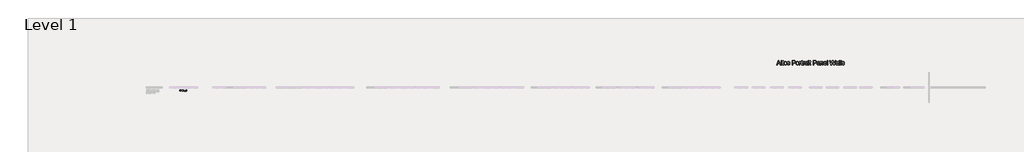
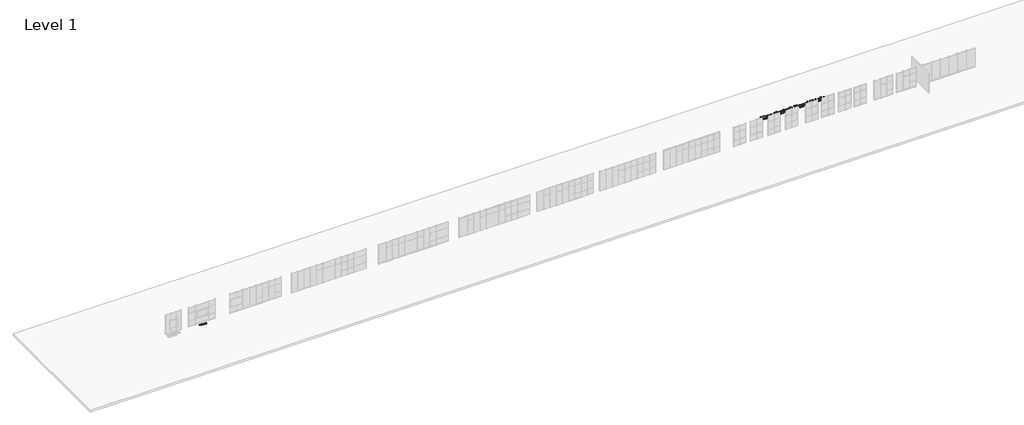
# One storey, part 22 of 22: 2 proxies.
"""IFC4 building model written with IfcOpenShell, lengths in millimetres."""

from ifc_helpers import new_model, si_unit, origin, origin_with_axes, place, context, project, spatial, polyline, outline, extrude, element, save

model = new_model("IFC4")

# Units and contexts
model_context = context("Model", 3, world=origin())
ifc_project = project(units=[si_unit("LENGTHUNIT", "METRE", prefix="MILLI")], contexts=[model_context])

# Site, building, storey
site = spatial("IfcSite", under=ifc_project)
building = spatial("IfcBuilding", under=site)
storey = spatial("IfcBuildingStorey", under=building, Name="Level 1", Elevation=0.0)

# Proxies
placement = place(None, origin())
element("IfcBuildingElementProxy", 1, Name="24\" Arial", ObjectType="24\" Arial", at=placement, inside=storey, context=model_context, shape_type="SweptSolid", body=[
    extrude(outline(polyline([(-18363.1673267, 5031.1018151), (-18120.0192804, 5640.2360032), (-18055.1798014, 5640.2360032), (-17812.0317551, 5031.1018151), (-17892.4862463, 5031.1018151), (-17962.2333005, 5221.4562489), (-18213.1144957, 5221.4562489), (-18282.7128355, 5031.1018151), (-18363.1673267, 5031.1018151)]), holes=[polyline([(-18185.1561882, 5297.5980224), (-17990.0428936, 5297.5980224), (-18044.9185077, 5447.3534246), (-18087.5995409, 5564.0942297), (-18125.5217133, 5460.440292), (-18185.1561882, 5297.5980224)])]), origin_with_axes(), (0.0, 0.0, 1.0), 152.4),
    extrude(outline(polyline([(-17740.2026992, 5031.1018151), (-17740.2026992, 5640.2360032), (-17664.0609257, 5640.2360032), (-17664.0609257, 5031.1018151), (-17740.2026992, 5031.1018151)])), origin_with_axes(), (0.0, 0.0, 1.0), 152.4),
    extrude(outline(polyline([(-17388.0469967, 5094.6028645), (-17378.529275, 5028.8710991), (-17408.6811199, 5023.4058448), (-17435.4868908, 5021.5840934), (-17472.0334549, 5024.7442745), (-17499.285369, 5034.2248175), (-17518.5438839, 5048.8360075), (-17531.1102509, 5067.3881291), (-17538.0254705, 5099.2501896), (-17540.3305437, 5153.7911963), (-17540.3305437, 5402.292961), (-17597.4368739, 5402.292961), (-17597.4368739, 5478.4347345), (-17540.3305437, 5478.4347345), (-17540.3305437, 5587.1449619), (-17464.1887702, 5631.9079968), (-17464.1887702, 5478.4347345), (-17388.0469967, 5478.4347345), (-17388.0469967, 5402.292961), (-17464.1887702, 5402.292961), (-17464.1887702, 5156.0219123), (-17460.1734814, 5116.7613103), (-17447.1609713, 5102.8565138), (-17436.1746949, 5099.0085287), (-17421.2103082, 5097.7258669), (-17388.0469967, 5094.6028645)])), origin_with_axes(), (0.0, 0.0, 1.0), 152.4),
    extrude(outline(polyline([(-17330.9406666, 5254.7682748), (-17326.8231366, 5312.7018288), (-17314.4705466, 5362.6233944), (-17293.8828967, 5404.5329717), (-17265.0601868, 5438.4305605), (-17236.0422892, 5460.0963899), (-17204.012925, 5475.5719823), (-17168.9720941, 5484.8573377), (-17130.9197967, 5487.9524562), (-17088.9126256, 5484.1834756), (-17050.930038, 5472.8765338), (-17016.9720339, 5454.0316307), (-16987.0386133, 5427.6487664), (-16962.6076256, 5394.6202274), (-16945.15692, 5355.8382999), (-16934.6864967, 5311.302984), (-16931.1963556, 5261.0142797), (-16932.7392675, 5220.257239), (-16937.3680033, 5184.0917556), (-16945.0825628, 5152.5178292), (-16955.8829462, 5125.53546), (-16969.634381, 5102.2291249), (-16986.2020948, 5081.6833009), (-17005.5860876, 5063.8979879), (-17027.7863593, 5048.8731861), (-17051.9385076, 5036.934208), (-17077.1781299, 5028.4063666), (-17103.5052263, 5023.2896617), (-17130.9197967, 5021.5840934), (-17173.5404147, 5025.3391321), (-17211.876199, 5036.604248), (-17245.9271495, 5055.3794411), (-17275.6932665, 5081.6647116), (-17299.864004, 5115.0139161), (-17317.1288165, 5154.9809115), (-17327.4877041, 5201.5656977), (-17330.9406666, 5254.7682748)]), holes=[polyline([(-17254.7988931, 5254.9169892), (-17252.596061, 5217.9846971), (-17245.9875648, 5186.0064535), (-17234.9734044, 5158.9822583), (-17219.5535799, 5136.9121117), (-17200.796976, 5119.7681296), (-17179.7724775, 5107.5224281), (-17156.4800844, 5100.1750072), (-17130.9197967, 5097.7258669), (-17105.489634, 5100.1889492), (-17082.2901874, 5107.578196), (-17061.3214568, 5119.8936074), (-17042.5834423, 5137.1351833), (-17027.1636178, 5159.4237542), (-17016.1494574, 5186.8801506), (-17009.5409612, 5219.5043724), (-17007.3381291, 5257.2964196), (-17009.5549032, 5293.0575859), (-17016.2052253, 5324.199311), (-17027.2890955, 5350.721595), (-17042.8065139, 5372.6244379), (-17061.6142383, 5389.76842), (-17082.5690269, 5402.0141215), (-17105.6708797, 5409.3615424), (-17130.9197967, 5411.8106827), (-17156.4800844, 5409.370837), (-17179.7724775, 5402.0513001), (-17200.796976, 5389.8520719), (-17219.5535799, 5372.7731523), (-17234.9734044, 5350.7680682), (-17245.9875648, 5323.7903464), (-17252.596061, 5291.8399867), (-17254.7988931, 5254.9169892)])]), origin_with_axes(), (0.0, 0.0, 1.0), 152.4),
    extrude(outline(polyline([(-16874.0900255, 5164.3499188), (-16797.948252, 5173.8676405), (-16793.3474002, 5156.5052341), (-16785.939564, 5141.2991865), (-16775.7247436, 5128.2494978), (-16762.7029388, 5117.3561679), (-16746.8369711, 5108.7679112), (-16728.0896619, 5102.6334422), (-16681.9510189, 5097.7258669), (-16636.3700548, 5102.2244776), (-16618.6544518, 5107.8477409), (-16604.3221013, 5115.7203095), (-16585.3610152, 5135.2762533), (-16580.6207436, 5146.2253511), (-16579.0406531, 5157.9551995), (-16580.6300383, 5168.2350825), (-16585.3981938, 5177.3624289), (-16604.4708157, 5192.1595118), (-16632.9868022, 5201.8259479), (-16682.8433053, 5213.8718144), (-16752.3301093, 5233.9668479), (-16797.5021087, 5251.124772), (-16826.5200063, 5269.8441973), (-16847.5445048, 5294.6237344), (-16860.315354, 5323.8832929), (-16864.5723038, 5356.0427822), (-16861.1518725, 5385.5440015), (-16850.8905789, 5412.7773263), (-16834.7178877, 5436.664577), (-16813.5632641, 5456.1275743), (-16792.5387656, 5468.3779231), (-16765.1567264, 5478.6578061), (-16733.4991482, 5485.6287937), (-16699.6480326, 5487.9524562), (-16650.0889584, 5484.2160069), (-16606.9989606, 5473.0066589), (-16572.348505, 5455.4211809), (-16548.1080576, 5432.5563417), (-16532.0469022, 5402.7205149), (-16521.934323, 5364.2220742), (-16598.0760965, 5354.7043526), (-16607.6867647, 5378.6659605), (-16626.7036187, 5396.716171), (-16655.3125517, 5408.0370548), (-16693.6994566, 5411.8106827), (-16737.4214906, 5408.2043585), (-16766.5695133, 5397.3853858), (-16782.965276, 5381.7703736), (-16788.4305303, 5363.775931), (-16786.1626356, 5352.0646719), (-16779.3589518, 5341.6174852), (-16767.7220499, 5332.2856565), (-16750.9545011, 5324.8127579), (-16685.3714501, 5308.6028881), (-16618.0967728, 5288.7123369), (-16573.6125774, 5272.7627174), (-16544.0927688, 5255.6233826), (-16521.7112514, 5232.1636858), (-16507.6019725, 5202.3092697), (-16502.8988796, 5165.9857772), (-16508.4199017, 5128.4353908), (-16524.9829682, 5093.1157205), (-16551.9560427, 5062.7965719), (-16588.7070892, 5040.2477508), (-16633.098338, 5026.2500078), (-16682.9920197, 5021.5840934), (-16723.9721319, 5023.8333987), (-16759.7658294, 5030.5813147), (-16790.3731121, 5041.8278413), (-16815.7939801, 5057.5729786), (-16836.5582284, 5077.7423693), (-16853.1956521, 5102.2616562), (-16865.7062511, 5131.1308394), (-16874.0900255, 5164.3499188)])), origin_with_axes(), (0.0, 0.0, 1.0), 152.4),
    extrude(outline(polyline([(-16169.7786204, 5031.1018151), (-16169.7786204, 5640.2360032), (-15944.0301591, 5640.2360032), (-15891.4596182, 5638.7860378), (-15853.0169455, 5634.4361416), (-15812.4365032, 5623.5985796), (-15779.0315308, 5605.9573337), (-15752.1328134, 5580.7130641), (-15731.0711363, 5547.0664308), (-15717.4637686, 5507.3782749), (-15712.9279793, 5464.0094376), (-15715.9905665, 5426.6170603), (-15725.1783282, 5392.2175603), (-15740.4912642, 5360.8109377), (-15761.9293746, 5332.3971923), (-15791.3608841, 5308.844549), (-15830.6540173, 5292.0212324), (-15879.8087743, 5281.9272424), (-15938.8251551, 5278.562579), (-16093.6368469, 5278.562579), (-16093.6368469, 5031.1018151), (-16169.7786204, 5031.1018151)]), holes=[polyline([(-16093.6368469, 5354.7043526), (-15934.363723, 5354.7043526), (-15897.7428017, 5356.4517468), (-15866.8473848, 5361.6939294), (-15841.6774723, 5370.4309005), (-15822.2330644, 5382.66266), (-15807.7241156, 5398.0638952), (-15797.3605807, 5416.3092933), (-15791.1424598, 5437.3988544), (-15789.0697529, 5461.3325784), (-15793.9587388, 5495.5368907), (-15808.6256966, 5524.3874846), (-15831.2488749, 5546.0997872), (-15860.0065223, 5558.8892257), (-15889.3776166, 5562.7929787), (-15936.1482958, 5564.0942297), (-16093.6368469, 5564.0942297), (-16093.6368469, 5354.7043526)])]), origin_with_axes(), (0.0, 0.0, 1.0), 152.4),
    extrude(outline(polyline([(-15636.7862058, 5254.7682748), (-15632.6686758, 5312.7018288), (-15620.3160859, 5362.6233944), (-15599.7284359, 5404.5329717), (-15570.905726, 5438.4305605), (-15541.8878284, 5460.0963899), (-15509.8584642, 5475.5719823), (-15474.8176334, 5484.8573377), (-15436.7653359, 5487.9524562), (-15394.7581649, 5484.1834756), (-15356.7755773, 5472.8765338), (-15322.8175732, 5454.0316307), (-15292.8841526, 5427.6487664), (-15268.4531648, 5394.6202274), (-15251.0024593, 5355.8382999), (-15240.532036, 5311.302984), (-15237.0418949, 5261.0142797), (-15238.5848068, 5220.257239), (-15243.2135425, 5184.0917556), (-15250.9281021, 5152.5178292), (-15261.7284855, 5125.53546), (-15275.4799203, 5102.2291249), (-15292.0476341, 5081.6833009), (-15311.4316268, 5063.8979879), (-15333.6318986, 5048.8731861), (-15357.7840468, 5036.934208), (-15383.0236691, 5028.4063666), (-15409.3507655, 5023.2896617), (-15436.7653359, 5021.5840934), (-15479.3859539, 5025.3391321), (-15517.7217382, 5036.604248), (-15551.7726888, 5055.3794411), (-15581.5388057, 5081.6647116), (-15605.7095433, 5115.0139161), (-15622.9743558, 5154.9809115), (-15633.3332433, 5201.5656977), (-15636.7862058, 5254.7682748)]), holes=[polyline([(-15560.6444323, 5254.9169892), (-15558.4416002, 5217.9846971), (-15551.833104, 5186.0064535), (-15540.8189437, 5158.9822583), (-15525.3991192, 5136.9121117), (-15506.6425153, 5119.7681296), (-15485.6180168, 5107.5224281), (-15462.3256237, 5100.1750072), (-15436.7653359, 5097.7258669), (-15411.3351733, 5100.1889492), (-15388.1357267, 5107.578196), (-15367.1669961, 5119.8936074), (-15348.4289815, 5137.1351833), (-15333.009157, 5159.4237542), (-15321.9949967, 5186.8801506), (-15315.3865004, 5219.5043724), (-15313.1836684, 5257.2964196), (-15315.4004424, 5293.0575859), (-15322.0507646, 5324.199311), (-15333.1346348, 5350.721595), (-15348.6520531, 5372.6244379), (-15367.4597776, 5389.76842), (-15388.4145662, 5402.0141215), (-15411.516419, 5409.3615424), (-15436.7653359, 5411.8106827), (-15462.3256237, 5409.370837), (-15485.6180168, 5402.0513001), (-15506.6425153, 5389.8520719), (-15525.3991192, 5372.7731523), (-15540.8189437, 5350.7680682), (-15551.833104, 5323.7903464), (-15558.4416002, 5291.8399867), (-15560.6444323, 5254.9169892)])]), origin_with_axes(), (0.0, 0.0, 1.0), 152.4),
    extrude(outline(polyline([(-15151.3823996, 5031.1018151), (-15151.3823996, 5478.4347345), (-15084.7583478, 5478.4347345), (-15084.7583478, 5412.2568259), (-15060.1461144, 5450.6251415), (-15037.4671682, 5473.2297305), (-15014.7138648, 5484.2717748), (-14989.8785597, 5487.9524562), (-14951.9563874, 5482.0782374), (-14913.4393574, 5464.4555808), (-14938.86952, 5396.1956705), (-14965.6381123, 5407.9069297), (-14992.4067045, 5411.8106827), (-15015.1414187, 5408.0556441), (-15035.4595238, 5396.7905282), (-15051.8738758, 5378.8704428), (-15062.8973308, 5355.1504958), (-15072.1548023, 5312.618177), (-15075.2406261, 5266.2192837), (-15075.2406261, 5031.1018151), (-15151.3823996, 5031.1018151)])), origin_with_axes(), (0.0, 0.0, 1.0), 152.4),
    extrude(outline(polyline([(-14704.0494802, 5094.6028645), (-14694.5317585, 5028.8710991), (-14724.6836034, 5023.4058448), (-14751.4893743, 5021.5840934), (-14788.0359384, 5024.7442745), (-14815.2878525, 5034.2248175), (-14834.5463675, 5048.8360075), (-14847.1127344, 5067.3881291), (-14854.027954, 5099.2501896), (-14856.3330273, 5153.7911963), (-14856.3330273, 5402.292961), (-14913.4393574, 5402.292961), (-14913.4393574, 5478.4347345), (-14856.3330273, 5478.4347345), (-14856.3330273, 5587.1449619), (-14780.1912538, 5631.9079968), (-14780.1912538, 5478.4347345), (-14704.0494802, 5478.4347345), (-14704.0494802, 5402.292961), (-14780.1912538, 5402.292961), (-14780.1912538, 5156.0219123), (-14776.1759649, 5116.7613103), (-14763.1634548, 5102.8565138), (-14752.1771784, 5099.0085287), (-14737.2127917, 5097.7258669), (-14704.0494802, 5094.6028645)])), origin_with_axes(), (0.0, 0.0, 1.0), 152.4),
    extrude(outline(polyline([(-14627.9077067, 5031.1018151), (-14627.9077067, 5478.4347345), (-14561.2836549, 5478.4347345), (-14561.2836549, 5412.2568259), (-14536.6714215, 5450.6251415), (-14513.9924752, 5473.2297305), (-14491.2391718, 5484.2717748), (-14466.4038668, 5487.9524562), (-14428.4816944, 5482.0782374), (-14389.9646645, 5464.4555808), (-14415.3948271, 5396.1956705), (-14442.1634194, 5407.9069297), (-14468.9320116, 5411.8106827), (-14491.6667257, 5408.0556441), (-14511.9848308, 5396.7905282), (-14528.3991829, 5378.8704428), (-14539.4226379, 5355.1504958), (-14548.6801094, 5312.618177), (-14551.7659332, 5266.2192837), (-14551.7659332, 5031.1018151), (-14627.9077067, 5031.1018151)])), origin_with_axes(), (0.0, 0.0, 1.0), 152.4),
    extrude(outline(polyline([(-14056.8444053, 5088.2081452), (-14093.2236658, 5057.0152996), (-14130.6811056, 5036.604248), (-14170.0718327, 5025.3391321), (-14212.2509548, 5021.5840934), (-14246.153191, 5023.8426934), (-14275.8821293, 5030.6184933), (-14301.4377697, 5041.9114932), (-14322.8201122, 5057.721693), (-14339.7038441, 5077.0452705), (-14351.7636526, 5098.8784035), (-14358.9995377, 5123.2210921), (-14361.4114994, 5150.0733362), (-14357.7679966, 5181.6379679), (-14346.8374881, 5210.3026688), (-14329.9769928, 5234.840545), (-14308.5435297, 5254.0247028), (-14283.355028, 5268.5243569), (-14255.2294168, 5279.0087222), (-14189.348937, 5290.4597312), (-14111.4969479, 5302.5055977), (-14057.2905485, 5316.6334658), (-14056.8444053, 5333.5869076), (-14062.086588, 5367.5681483), (-14068.6393163, 5380.1531045), (-14077.8131359, 5389.8009513), (-14093.669809, 5399.4302088), (-14112.9840919, 5406.3082498), (-14161.9854871, 5411.8106827), (-14207.3433796, 5408.1485906), (-14239.0195471, 5397.1623142), (-14260.6203139, 5376.8442091), (-14275.7520042, 5345.1866309), (-14351.8937777, 5354.7043526), (-14338.6767853, 5396.344385), (-14318.9535378, 5429.0615533), (-14290.8836945, 5454.0827513), (-14252.6269148, 5472.6348729), (-14205.8376462, 5484.1230604), (-14152.1703366, 5487.9524562), (-14100.6965645, 5484.5692036), (-14059.8930506, 5474.4194457), (-14029.1277588, 5459.1576302), (-14007.7686529, 5440.438205), (-13993.6036061, 5417.2945262), (-13984.4204919, 5388.7599505), (-13980.7026318, 5322.1358987), (-13980.7026318, 5227.404825), (-13976.8360574, 5095.1233649), (-13971.1105529, 5062.4247859), (-13961.6671884, 5031.1018151), (-14037.808962, 5031.1018151), (-14050.0035429, 5057.5729786), (-14056.8444053, 5088.2081452)]), holes=[polyline([(-14056.8444053, 5240.4916923), (-14108.0021594, 5227.8137896), (-14179.6825009, 5217.1435313), (-14245.1911947, 5204.8002359), (-14262.237583, 5196.3606937), (-14274.8597178, 5184.7237918), (-14282.6672239, 5170.7818166), (-14285.2697259, 5155.4270547), (-14279.5999893, 5132.7852871), (-14262.5907797, 5114.2331655), (-14234.6138829, 5101.8526916), (-14196.041085, 5097.7258669), (-14155.1446247, 5102.2802455), (-14119.0070251, 5115.9433811), (-14089.710288, 5136.0755932), (-14069.3364151, 5160.0372011), (-14060.3020152, 5184.7237918), (-14057.2905485, 5218.9281041), (-14056.8444053, 5240.4916923)])]), origin_with_axes(), (0.0, 0.0, 1.0), 152.4),
    extrude(outline(polyline([(-13876.0076932, 5564.0942297), (-13876.0076932, 5640.2360032), (-13799.8659197, 5640.2360032), (-13799.8659197, 5564.0942297), (-13876.0076932, 5564.0942297)])), origin_with_axes(), (0.0, 0.0, 1.0), 152.4),
    extrude(outline(polyline([(-13876.0076932, 5031.1018151), (-13876.0076932, 5478.4347345), (-13799.8659197, 5478.4347345), (-13799.8659197, 5031.1018151), (-13876.0076932, 5031.1018151)])), origin_with_axes(), (0.0, 0.0, 1.0), 152.4),
    extrude(outline(polyline([(-13523.8519907, 5094.6028645), (-13514.334269, 5028.8710991), (-13544.4861139, 5023.4058448), (-13571.2918848, 5021.5840934), (-13607.8384489, 5024.7442745), (-13635.090363, 5034.2248175), (-13654.3488779, 5048.8360075), (-13666.9152449, 5067.3881291), (-13673.8304645, 5099.2501896), (-13676.1355378, 5153.7911963), (-13676.1355378, 5402.292961), (-13733.2418679, 5402.292961), (-13733.2418679, 5478.4347345), (-13676.1355378, 5478.4347345), (-13676.1355378, 5587.1449619), (-13599.9937642, 5631.9079968), (-13599.9937642, 5478.4347345), (-13523.8519907, 5478.4347345), (-13523.8519907, 5402.292961), (-13599.9937642, 5402.292961), (-13599.9937642, 5156.0219123), (-13595.9784754, 5116.7613103), (-13582.9659653, 5102.8565138), (-13571.9796889, 5099.0085287), (-13557.0153022, 5097.7258669), (-13523.8519907, 5094.6028645)])), origin_with_axes(), (0.0, 0.0, 1.0), 152.4),
    extrude(outline(polyline([(-13200.2494533, 5031.1018151), (-13200.2494533, 5640.2360032), (-12974.5009919, 5640.2360032), (-12921.9304511, 5638.7860378), (-12883.4877783, 5634.4361416), (-12842.907336, 5623.5985796), (-12809.5023636, 5605.9573337), (-12782.6036462, 5580.7130641), (-12761.5419691, 5547.0664308), (-12747.9346014, 5507.3782749), (-12743.3988122, 5464.0094376), (-12746.4613994, 5426.6170603), (-12755.649161, 5392.2175603), (-12770.962097, 5360.8109377), (-12792.4002074, 5332.3971923), (-12821.8317169, 5308.844549), (-12861.1248502, 5292.0212324), (-12910.2796072, 5281.9272424), (-12969.2959879, 5278.562579), (-13124.1076798, 5278.562579), (-13124.1076798, 5031.1018151), (-13200.2494533, 5031.1018151)]), holes=[polyline([(-13124.1076798, 5354.7043526), (-12964.8345559, 5354.7043526), (-12928.2136345, 5356.4517468), (-12897.3182176, 5361.6939294), (-12872.1483052, 5370.4309005), (-12852.7038972, 5382.66266), (-12838.1949484, 5398.0638952), (-12827.8314136, 5416.3092933), (-12821.6132927, 5437.3988544), (-12819.5405857, 5461.3325784), (-12824.4295716, 5495.5368907), (-12839.0965295, 5524.3874846), (-12861.7197078, 5546.0997872), (-12890.4773552, 5558.8892257), (-12919.8484494, 5562.7929787), (-12966.6191287, 5564.0942297), (-13124.1076798, 5564.0942297), (-13124.1076798, 5354.7043526)])]), origin_with_axes(), (0.0, 0.0, 1.0), 152.4),
    extrude(outline(polyline([(-12362.6899446, 5088.2081452), (-12399.069205, 5057.0152996), (-12436.5266449, 5036.604248), (-12475.9173719, 5025.3391321), (-12518.096494, 5021.5840934), (-12551.9987302, 5023.8426934), (-12581.7276685, 5030.6184933), (-12607.283309, 5041.9114932), (-12628.6656515, 5057.721693), (-12645.5493834, 5077.0452705), (-12657.6091919, 5098.8784035), (-12664.845077, 5123.2210921), (-12667.2570387, 5150.0733362), (-12663.6135358, 5181.6379679), (-12652.6830273, 5210.3026688), (-12635.8225321, 5234.840545), (-12614.389069, 5254.0247028), (-12589.2005672, 5268.5243569), (-12561.0749561, 5279.0087222), (-12495.1944762, 5290.4597312), (-12417.3424871, 5302.5055977), (-12363.1360878, 5316.6334658), (-12362.6899446, 5333.5869076), (-12367.9321272, 5367.5681483), (-12374.4848555, 5380.1531045), (-12383.6586752, 5389.8009513), (-12399.5153482, 5399.4302088), (-12418.8296311, 5406.3082498), (-12467.8310264, 5411.8106827), (-12513.1889188, 5408.1485906), (-12544.8650863, 5397.1623142), (-12566.4658531, 5376.8442091), (-12581.5975434, 5345.1866309), (-12657.739317, 5354.7043526), (-12644.5223245, 5396.344385), (-12624.7990771, 5429.0615533), (-12596.7292338, 5454.0827513), (-12558.472454, 5472.6348729), (-12511.6831855, 5484.1230604), (-12458.0158759, 5487.9524562), (-12406.5421037, 5484.5692036), (-12365.7385898, 5474.4194457), (-12334.973298, 5459.1576302), (-12313.6141921, 5440.438205), (-12299.4491454, 5417.2945262), (-12290.2660311, 5388.7599505), (-12286.5481711, 5322.1358987), (-12286.5481711, 5227.404825), (-12282.6815966, 5095.1233649), (-12276.9560922, 5062.4247859), (-12267.5127277, 5031.1018151), (-12343.6545012, 5031.1018151), (-12355.8490821, 5057.5729786), (-12362.6899446, 5088.2081452)]), holes=[polyline([(-12362.6899446, 5240.4916923), (-12413.8476987, 5227.8137896), (-12485.5280401, 5217.1435313), (-12551.036734, 5204.8002359), (-12568.0831222, 5196.3606937), (-12580.705257, 5184.7237918), (-12588.5127631, 5170.7818166), (-12591.1152651, 5155.4270547), (-12585.4455286, 5132.7852871), (-12568.4363189, 5114.2331655), (-12540.4594222, 5101.8526916), (-12501.8866243, 5097.7258669), (-12460.9901639, 5102.2802455), (-12424.8525644, 5115.9433811), (-12395.5558273, 5136.0755932), (-12375.1819543, 5160.0372011), (-12366.1475544, 5184.7237918), (-12363.1360878, 5218.9281041), (-12362.6899446, 5240.4916923)])]), origin_with_axes(), (0.0, 0.0, 1.0), 152.4),
    extrude(outline(polyline([(-12181.8532325, 5031.1018151), (-12181.8532325, 5478.4347345), (-12105.711459, 5478.4347345), (-12105.711459, 5415.9746859), (-12079.2588848, 5447.4649604), (-12047.4897708, 5469.9580136), (-12010.404117, 5483.4538456), (-11968.0019233, 5487.9524562), (-11930.4701262, 5484.3275427), (-11896.0985102, 5473.4528021), (-11867.4338093, 5456.6852533), (-11847.0227577, 5435.3819153), (-11833.1737291, 5409.598556), (-11824.1950971, 5379.3909432), (-11820.1798083, 5305.7773145), (-11820.1798083, 5031.1018151), (-11896.3215818, 5031.1018151), (-11896.3215818, 5295.5160208), (-11898.5151192, 5334.8881586), (-11905.0957315, 5362.8836446), (-11917.2345445, 5382.9414995), (-11936.1026842, 5398.5007438), (-11960.2873637, 5408.483198), (-11988.3757963, 5411.8106827), (-12011.4962384, 5409.942458), (-12032.9715274, 5404.337784), (-12052.8016633, 5394.9966607), (-12070.9866462, 5381.919088), (-12086.1787518, 5363.617922), (-12097.0302558, 5338.6060186), (-12103.5411582, 5306.8833779), (-12105.711459, 5268.4499997), (-12105.711459, 5031.1018151), (-12181.8532325, 5031.1018151)])), origin_with_axes(), (0.0, 0.0, 1.0), 152.4),
    extrude(outline(polyline([(-11402.2923403, 5164.3499188), (-11327.6377108, 5154.8321971), (-11339.0840724, 5124.9313077), (-11354.5364282, 5098.5809747), (-11373.9947781, 5075.7811981), (-11397.4591223, 5056.5319778), (-11424.6877997, 5041.2422784), (-11455.4391495, 5030.3210645), (-11489.7131717, 5023.7683362), (-11527.5098663, 5021.5840934), (-11574.7545727, 5025.353074), (-11616.850043, 5036.6600159), (-11653.7962771, 5055.5049189), (-11685.593275, 5081.8877832), (-11711.1628574, 5115.0743313), (-11729.4268448, 5154.330286), (-11740.3852373, 5199.6556471), (-11744.0380348, 5251.0504148), (-11740.3480587, 5304.1879293), (-11729.2781304, 5351.0236711), (-11710.82825, 5391.5576402), (-11684.9984174, 5425.7898364), (-11653.2850713, 5452.9859826), (-11617.1846504, 5472.4118013), (-11576.6971546, 5484.0672925), (-11531.822584, 5487.9524562), (-11488.3933314, 5484.0765871), (-11449.1187875, 5472.4489799), (-11413.9989521, 5453.0696344), (-11383.0338254, 5425.9385508), (-11357.7570244, 5391.7807118), (-11339.7021666, 5351.3210999), (-11328.869252, 5304.5597153), (-11325.2582804, 5251.496558), (-11325.7044236, 5230.9739706), (-11667.8962612, 5230.9739706), (-11663.4859498, 5200.5897595), (-11654.7164474, 5173.9791763), (-11641.5877542, 5151.142221), (-11624.09987, 5132.0788937), (-11603.2194386, 5117.0494445), (-11579.9131035, 5106.3141236), (-11554.1808647, 5099.8729311), (-11526.0227223, 5097.7258669), (-11485.4980479, 5101.7039772), (-11451.3680928, 5113.6383079), (-11423.6328569, 5134.2724311), (-11402.2923403, 5164.3499188)]), holes=[polyline([(-11667.8962612, 5307.1157441), (-11401.4000539, 5307.1157441), (-11411.6985262, 5347.3429897), (-11420.5563278, 5363.1624841), (-11431.8865062, 5376.1192264), (-11452.6507545, 5391.7342385), (-11476.277755, 5402.8878186), (-11502.7675078, 5409.5799667), (-11532.1200128, 5411.8106827), (-11558.8932523, 5410.0307572), (-11583.4450705, 5404.6909807), (-11605.7754674, 5395.7913533), (-11625.8844428, 5383.3318748), (-11642.7588801, 5367.8888137), (-11655.3856622, 5350.0384382), (-11663.7647893, 5329.7807483), (-11667.8962612, 5307.1157441)])]), origin_with_axes(), (0.0, 0.0, 1.0), 152.4),
    extrude(outline(polyline([(-11249.1165069, 5031.1018151), (-11249.1165069, 5640.2360032), (-11172.9747334, 5640.2360032), (-11172.9747334, 5031.1018151), (-11249.1165069, 5031.1018151)])), origin_with_axes(), (0.0, 0.0, 1.0), 152.4),
    extrude(outline(polyline([(-10702.2936529, 5031.1018151), (-10868.4076393, 5640.2360032), (-10789.8864354, 5640.2360032), (-10693.5195033, 5239.8968347), (-10663.776623, 5116.3151671), (-10631.9517411, 5225.6202521), (-10511.1956471, 5640.2360032), (-10398.0239877, 5640.2360032), (-10310.2824909, 5339.684198), (-10272.6949259, 5228.148397), (-10244.9968686, 5116.3151671), (-10216.1462748, 5236.327689), (-10118.8870563, 5640.2360032), (-10040.3658523, 5640.2360032), (-10206.6285531, 5031.1018151), (-10287.9753306, 5031.1018151), (-10434.0128728, 5501.0393235), (-10454.3867458, 5566.6223746), (-10477.2887636, 5487.6550274), (-10610.3881529, 5031.1018151), (-10702.2936529, 5031.1018151)])), origin_with_axes(), (0.0, 0.0, 1.0), 152.4),
    extrude(outline(polyline([(-9688.2101498, 5088.2081452), (-9724.5894102, 5057.0152996), (-9762.0468501, 5036.604248), (-9801.4375772, 5025.3391321), (-9843.6166993, 5021.5840934), (-9877.5189355, 5023.8426934), (-9907.2478738, 5030.6184933), (-9932.8035142, 5041.9114932), (-9954.1858567, 5057.721693), (-9971.0695886, 5077.0452705), (-9983.1293971, 5098.8784035), (-9990.3652822, 5123.2210921), (-9992.7772439, 5150.0733362), (-9989.133741, 5181.6379679), (-9978.2032325, 5210.3026688), (-9961.3427373, 5234.840545), (-9939.9092742, 5254.0247028), (-9914.7207724, 5268.5243569), (-9886.5951613, 5279.0087222), (-9820.7146814, 5290.4597312), (-9742.8626923, 5302.5055977), (-9688.656293, 5316.6334658), (-9688.2101498, 5333.5869076), (-9693.4523324, 5367.5681483), (-9700.0050608, 5380.1531045), (-9709.1788804, 5389.8009513), (-9725.0355534, 5399.4302088), (-9744.3498363, 5406.3082498), (-9793.3512316, 5411.8106827), (-9838.709124, 5408.1485906), (-9870.3852915, 5397.1623142), (-9891.9860583, 5376.8442091), (-9907.1177487, 5345.1866309), (-9983.2595222, 5354.7043526), (-9970.0425298, 5396.344385), (-9950.3192823, 5429.0615533), (-9922.249439, 5454.0827513), (-9883.9926592, 5472.6348729), (-9837.2033907, 5484.1230604), (-9783.5360811, 5487.9524562), (-9732.0623089, 5484.5692036), (-9691.258795, 5474.4194457), (-9660.4935032, 5459.1576302), (-9639.1343973, 5440.438205), (-9624.9693506, 5417.2945262), (-9615.7862363, 5388.7599505), (-9612.0683763, 5322.1358987), (-9612.0683763, 5227.404825), (-9608.2018018, 5095.1233649), (-9602.4762974, 5062.4247859), (-9593.0329329, 5031.1018151), (-9669.1747064, 5031.1018151), (-9681.3692873, 5057.5729786), (-9688.2101498, 5088.2081452)]), holes=[polyline([(-9688.2101498, 5240.4916923), (-9739.3679039, 5227.8137896), (-9811.0482454, 5217.1435313), (-9876.5569392, 5204.8002359), (-9893.6033274, 5196.3606937), (-9906.2254622, 5184.7237918), (-9914.0329683, 5170.7818166), (-9916.6354703, 5155.4270547), (-9910.9657338, 5132.7852871), (-9893.9565241, 5114.2331655), (-9865.9796274, 5101.8526916), (-9827.4068295, 5097.7258669), (-9786.5103691, 5102.2802455), (-9750.3727696, 5115.9433811), (-9721.0760325, 5136.0755932), (-9700.7021595, 5160.0372011), (-9691.6677596, 5184.7237918), (-9688.656293, 5218.9281041), (-9688.2101498, 5240.4916923)])]), origin_with_axes(), (0.0, 0.0, 1.0), 152.4),
    extrude(outline(polyline([(-9507.3734377, 5031.1018151), (-9507.3734377, 5640.2360032), (-9431.2316642, 5640.2360032), (-9431.2316642, 5031.1018151), (-9507.3734377, 5031.1018151)])), origin_with_axes(), (0.0, 0.0, 1.0), 152.4),
    extrude(outline(polyline([(-9317.0190039, 5031.1018151), (-9317.0190039, 5640.2360032), (-9240.8772304, 5640.2360032), (-9240.8772304, 5031.1018151), (-9317.0190039, 5031.1018151)])), origin_with_axes(), (0.0, 0.0, 1.0), 152.4),
    extrude(outline(polyline([(-9155.2177352, 5164.3499188), (-9079.0759617, 5173.8676405), (-9074.4751099, 5156.5052341), (-9067.0672737, 5141.2991865), (-9056.8524533, 5128.2494978), (-9043.8306485, 5117.3561679), (-9027.9646808, 5108.7679112), (-9009.2173716, 5102.6334422), (-8963.0787286, 5097.7258669), (-8917.4977645, 5102.2244776), (-8899.7821615, 5107.8477409), (-8885.449811, 5115.7203095), (-8866.4887249, 5135.2762533), (-8861.7484533, 5146.2253511), (-8860.1683628, 5157.9551995), (-8861.757748, 5168.2350825), (-8866.5259035, 5177.3624289), (-8885.5985254, 5192.1595118), (-8914.1145119, 5201.8259479), (-8963.971015, 5213.8718144), (-9033.457819, 5233.9668479), (-9078.6298185, 5251.124772), (-9107.647716, 5269.8441973), (-9128.6722145, 5294.6237344), (-9141.4430637, 5323.8832929), (-9145.7000135, 5356.0427822), (-9142.2795823, 5385.5440015), (-9132.0182886, 5412.7773263), (-9115.8455974, 5436.664577), (-9094.6909738, 5456.1275743), (-9073.6664753, 5468.3779231), (-9046.2844362, 5478.6578061), (-9014.626858, 5485.6287937), (-8980.7757423, 5487.9524562), (-8931.2166681, 5484.2160069), (-8888.1266703, 5473.0066589), (-8853.4762147, 5455.4211809), (-8829.2357673, 5432.5563417), (-8813.174612, 5402.7205149), (-8803.0620327, 5364.2220742), (-8879.2038062, 5354.7043526), (-8888.8144744, 5378.6659605), (-8907.8313284, 5396.716171), (-8936.4402614, 5408.0370548), (-8974.8271663, 5411.8106827), (-9018.5492003, 5408.2043585), (-9047.697223, 5397.3853858), (-9064.0929857, 5381.7703736), (-9069.55824, 5363.775931), (-9067.2903453, 5352.0646719), (-9060.4866615, 5341.6174852), (-9048.8497596, 5332.2856565), (-9032.0822108, 5324.8127579), (-8966.4991598, 5308.6028881), (-8899.2244825, 5288.7123369), (-8854.7402871, 5272.7627174), (-8825.2204785, 5255.6233826), (-8802.8389611, 5232.1636858), (-8788.7296822, 5202.3092697), (-8784.0265893, 5165.9857772), (-8789.5476114, 5128.4353908), (-8806.1106779, 5093.1157205), (-8833.0837524, 5062.7965719), (-8869.8347989, 5040.2477508), (-8914.2260477, 5026.2500078), (-8964.1197294, 5021.5840934), (-9005.0998416, 5023.8333987), (-9040.8935391, 5030.5813147), (-9071.5008218, 5041.8278413), (-9096.9216898, 5057.5729786), (-9117.6859381, 5077.7423693), (-9134.3233618, 5102.2616562), (-9146.8339608, 5131.1308394), (-9155.2177352, 5164.3499188)])), origin_with_axes(), (0.0, 0.0, 1.0), 152.4),
])
element("IfcBuildingElementProxy", 2, Name="6\" Arial", ObjectType="6\" Arial", at=placement, inside=storey, context=model_context, shape_type="SweptSolid", body=[
    extrude(outline(polyline([(-102685.17584, 1290.0576741), (-102685.17584, 1424.0161637), (-102735.4102736, 1424.0161637), (-102735.4102736, 1443.1530908), (-102615.8044793, 1443.1530908), (-102615.8044793, 1424.0161637), (-102666.0389129, 1424.0161637), (-102666.0389129, 1290.0576741), (-102685.17584, 1290.0576741)])), origin_with_axes(), (0.0, 0.0, 1.0), 76.2),
    extrude(outline(polyline([(-102549.0494954, 1290.0576741), (-102609.9736968, 1443.1530908), (-102589.4912046, 1443.1530908), (-102548.7131041, 1332.8541224), (-102540.4528289, 1307.9985432), (-102532.3046842, 1332.8541224), (-102491.4144533, 1443.1530908), (-102470.931961, 1443.1530908), (-102529.2771625, 1290.0576741), (-102549.0494954, 1290.0576741)])), origin_with_axes(), (0.0, 0.0, 1.0), 76.2),
    extrude(outline(polyline([(-102400.5140496, 1342.6842236), (-102381.3771225, 1342.6842236), (-102375.2099488, 1323.5286081), (-102360.1470941, 1311.4185214), (-102337.1977323, 1306.8024853), (-102317.2011386, 1310.2972171), (-102304.2874505, 1319.9030575), (-102300.0451824, 1332.7419919), (-102303.2222113, 1344.683883), (-102316.2293415, 1353.3739914), (-102344.0937539, 1360.6811579), (-102374.0886445, 1370.1188026), (-102390.3662455, 1384.3593675), (-102395.7298179, 1403.3841642), (-102394.0712219, 1414.5925353), (-102389.095434, 1425.044026), (-102380.9332729, 1433.9023301), (-102369.7155576, 1440.3311416), (-102341.3465583, 1445.5452067), (-102311.0713416, 1440.0881923), (-102299.4658419, 1433.3510222), (-102290.8878638, 1424.0535405), (-102285.4588821, 1412.7750879), (-102283.3003712, 1400.0950048), (-102302.4372983, 1400.0950048), (-102305.9507185, 1411.5136205), (-102313.2765734, 1419.7552073), (-102324.7232217, 1424.7450115), (-102340.5990221, 1426.4082796), (-102356.8485905, 1424.7636999), (-102367.9962243, 1419.8299609), (-102374.4437242, 1412.5695154), (-102376.5928908, 1403.9448163), (-102375.0697857, 1396.5909288), (-102370.5004706, 1390.6760485), (-102339.2534569, 1379.9862807), (-102305.3900664, 1370.3804403), (-102294.4807097, 1363.4376977), (-102286.8698567, 1354.8690639), (-102282.3986557, 1344.7679808), (-102280.9082554, 1333.2278905), (-102282.6229165, 1321.4308346), (-102287.7669001, 1310.3345939), (-102296.1299615, 1300.7848188), (-102307.5018562, 1293.6271595), (-102321.1770968, 1289.1559585), (-102336.4501961, 1287.6655582), (-102355.1993387, 1289.2727611), (-102370.6312895, 1294.0943697), (-102382.9235881, 1302.1490724), (-102392.2537745, 1313.4555576), (-102398.2434084, 1327.2289124), (-102400.5140496, 1342.6842236)])), origin_with_axes(), (0.0, 0.0, 1.0), 76.2),
    extrude(outline(polyline([(-102254.5949806, 1290.0576741), (-102254.5949806, 1443.1530908), (-102235.4580535, 1443.1530908), (-102235.4580535, 1386.8636138), (-102220.5353619, 1400.3753309), (-102202.1553152, 1404.8792366), (-102180.663649, 1399.964186), (-102167.6191421, 1386.3777153), (-102163.694577, 1361.2231217), (-102163.694577, 1290.0576741), (-102182.8315041, 1290.0576741), (-102182.8315041, 1359.2421507), (-102184.3546091, 1371.2214186), (-102188.9239242, 1379.4256285), (-102196.2871559, 1384.1631393), (-102206.1920107, 1385.7423095), (-102221.8715828, 1381.4813531), (-102232.3370898, 1369.9319186), (-102235.4580535, 1349.7858176), (-102235.4580535, 1290.0576741), (-102254.5949806, 1290.0576741)])), origin_with_axes(), (0.0, 0.0, 1.0), 76.2),
    extrude(outline(polyline([(-102137.3813022, 1290.0576741), (-102137.3813022, 1402.4871207), (-102120.636491, 1402.4871207), (-102120.636491, 1385.85444), (-102108.7506652, 1401.1789323), (-102096.7900858, 1404.8792366), (-102077.5784051, 1398.9737005), (-102083.9698397, 1381.8177444), (-102097.4254916, 1385.7423095), (-102108.2460783, 1381.9672516), (-102115.1420999, 1371.5017446), (-102118.2443751, 1349.1504118), (-102118.2443751, 1290.0576741), (-102137.3813022, 1290.0576741)])), origin_with_axes(), (0.0, 0.0, 1.0), 76.2),
    extrude(outline(polyline([(-102070.4020574, 1346.2723974), (-102066.2625757, 1373.3799294), (-102053.8441303, 1392.4327586), (-102038.5009495, 1401.7676171), (-102020.130247, 1404.8792366), (-102000.026195, 1401.0901624), (-101983.9681827, 1389.7229399), (-101973.4419384, 1371.6746124), (-101969.9331902, 1347.8422235), (-101971.4843279, 1328.5090681), (-101976.1377408, 1313.7919489), (-101983.7579381, 1302.7704619), (-101994.2094288, 1294.524203), (-102006.6232021, 1289.3802194), (-102020.130247, 1287.6655582), (-102040.4772484, 1291.4406161), (-102056.5165723, 1302.7657897), (-102066.9306861, 1321.1925574), (-102070.4020574, 1346.2723974)]), holes=[polyline([(-102051.2651304, 1346.3097742), (-102049.0505543, 1328.9902946), (-102042.4068262, 1316.6512749), (-102032.4085293, 1309.2646827), (-102020.130247, 1306.8024853), (-102007.9080299, 1309.278699), (-101997.9284215, 1316.7073401), (-101991.2846934, 1329.2098833), (-101989.0701173, 1346.9078032), (-101991.2987097, 1363.7226959), (-101997.9844867, 1375.8935199), (-102007.9781114, 1383.2801121), (-102020.130247, 1385.7423095), (-102032.4085293, 1383.2894563), (-102042.4068262, 1375.9308967), (-102049.0505543, 1363.6199097), (-102051.2651304, 1346.3097742)])]), origin_with_axes(), (0.0, 0.0, 1.0), 76.2),
    extrude(outline(polyline([(-101876.6406707, 1290.0576741), (-101876.6406707, 1309.3814852), (-101891.6287718, 1293.09454), (-101911.1768438, 1287.6655582), (-101929.1737782, 1291.4779929), (-101941.5828793, 1301.0464565), (-101947.282843, 1315.1375141), (-101948.4041473, 1332.928876), (-101948.4041473, 1402.4871207), (-101929.2672202, 1402.4871207), (-101929.2672202, 1341.9366874), (-101928.1085391, 1322.4259922), (-101920.5397349, 1310.9699997), (-101906.2804816, 1306.8024853), (-101890.301895, 1311.0634417), (-101879.742946, 1322.6689415), (-101876.6406707, 1343.992412), (-101876.6406707, 1402.4871207), (-101857.5037436, 1402.4871207), (-101857.5037436, 1290.0576741), (-101876.6406707, 1290.0576741)])), origin_with_axes(), (0.0, 0.0, 1.0), 76.2),
    extrude(outline(polyline([(-101761.8191082, 1290.0576741), (-101761.8191082, 1308.1106737), (-101774.4805028, 1292.7768371), (-101791.9821945, 1287.6655582), (-101804.3539188, 1289.5157104), (-101815.6790924, 1295.0661667), (-101825.2662444, 1303.929143), (-101832.4239036, 1315.7168547), (-101836.8810883, 1329.9527474), (-101838.3668165, 1346.160267), (-101832.8911138, 1376.6223677), (-101826.0511574, 1388.7044218), (-101816.4826939, 1397.5907585), (-101804.9098989, 1403.0571171), (-101792.0569481, 1404.8792366), (-101774.4150934, 1399.6651715), (-101761.8191082, 1386.1160776), (-101761.8191082, 1443.1530908), (-101742.6821811, 1443.1530908), (-101742.6821811, 1290.0576741), (-101761.8191082, 1290.0576741)]), holes=[polyline([(-101819.2298895, 1346.2350206), (-101817.0713786, 1328.9248851), (-101810.5958462, 1316.6138981), (-101801.1862341, 1309.2553385), (-101790.2254844, 1306.8024853), (-101779.2694067, 1309.1432081), (-101770.0980718, 1316.1653764), (-101763.8888491, 1327.9998091), (-101761.8191082, 1344.777325), (-101763.9262259, 1363.1199948), (-101770.247579, 1375.8374547), (-101779.652519, 1383.2660958), (-101791.0103974, 1385.7423095), (-101802.0832776, 1383.3642099), (-101811.1564984, 1376.2299112), (-101817.2115417, 1363.9749894), (-101819.2298895, 1346.2350206)])]), origin_with_axes(), (0.0, 0.0, 1.0), 76.2),
])

save(model, "model.ifc")
